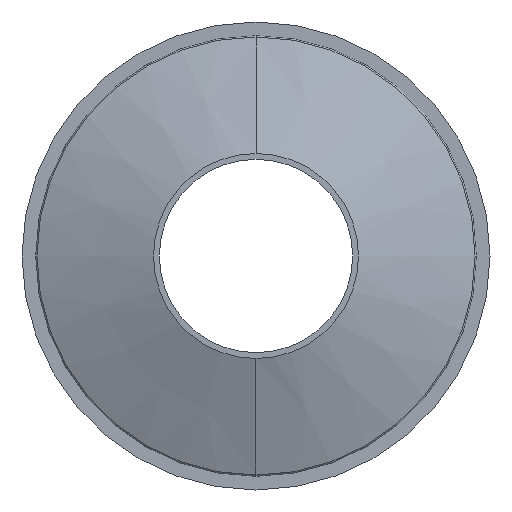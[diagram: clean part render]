
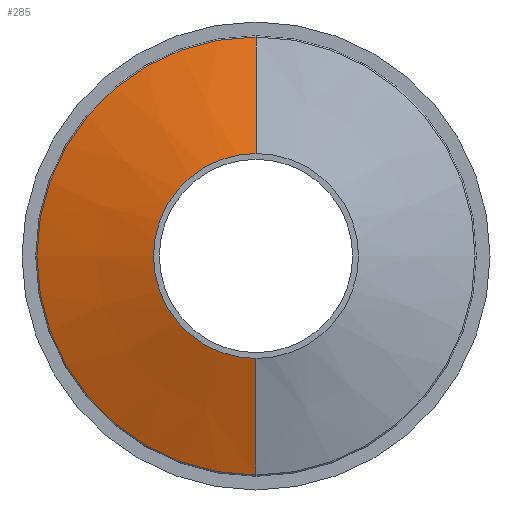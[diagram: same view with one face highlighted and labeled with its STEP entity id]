
A CAD part, left-side view. The second image highlights one B-rep face of the part: STEP entity #285.
In plain terms, the highlighted conical face has half-angle 70 degrees and reference radius 56.634 mm.
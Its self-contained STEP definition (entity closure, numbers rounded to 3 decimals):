
#3 = CARTESIAN_POINT ( 'NONE',  ( -5.452, 0., -56.634 ) ) ;
#4 = EDGE_LOOP ( 'NONE', ( #372, #240, #312, #278 ) ) ;
#8 = VERTEX_POINT ( 'NONE', #111 ) ;
#13 = DIRECTION ( 'NONE',  ( 0., 0., -1. ) ) ;
#23 = VECTOR ( 'NONE', #204, 1000. ) ;
#30 = LINE ( 'NONE', #530, #23 ) ;
#34 = CARTESIAN_POINT ( 'NONE',  ( -5.452, 0., 0. ) ) ;
#38 = AXIS2_PLACEMENT_3D ( 'NONE', #331, #52, #13 ) ;
#52 = DIRECTION ( 'NONE',  ( 1., 0., 0. ) ) ;
#66 = EDGE_CURVE ( 'NONE', #103, #8, #30, .T. ) ;
#103 = VERTEX_POINT ( 'NONE', #526 ) ;
#111 = CARTESIAN_POINT ( 'NONE',  ( -5.452, 0., 56.634 ) ) ;
#118 = CIRCLE ( 'NONE', #251, 56.634 ) ;
#152 = VECTOR ( 'NONE', #212, 1000. ) ;
#154 = EDGE_CURVE ( 'NONE', #8, #419, #118, .T. ) ;
#171 = FACE_OUTER_BOUND ( 'NONE', #4, .T. ) ;
#192 = CARTESIAN_POINT ( 'NONE',  ( -5.452, 0., -56.634 ) ) ;
#204 = DIRECTION ( 'NONE',  ( 0.342, 0., 0.94 ) ) ;
#211 = LINE ( 'NONE', #3, #152 ) ;
#212 = DIRECTION ( 'NONE',  ( 0.342, 0., -0.94 ) ) ;
#213 = VERTEX_POINT ( 'NONE', #491 ) ;
#240 = ORIENTED_EDGE ( 'NONE', *, *, #66, .T. ) ;
#245 = DIRECTION ( 'NONE',  ( 0., 0., 1. ) ) ;
#251 = AXIS2_PLACEMENT_3D ( 'NONE', #34, #283, #245 ) ;
#272 = EDGE_CURVE ( 'NONE', #213, #419, #211, .T. ) ;
#278 = ORIENTED_EDGE ( 'NONE', *, *, #272, .F. ) ;
#283 = DIRECTION ( 'NONE',  ( -1., 0., 0. ) ) ;
#285 = ADVANCED_FACE ( 'NONE', ( #171 ), #453, .T. ) ;
#312 = ORIENTED_EDGE ( 'NONE', *, *, #154, .T. ) ;
#331 = CARTESIAN_POINT ( 'NONE',  ( -5.452, 0., 0. ) ) ;
#353 = DIRECTION ( 'NONE',  ( 0., 0., 1. ) ) ;
#367 = AXIS2_PLACEMENT_3D ( 'NONE', #397, #436, #353 ) ;
#372 = ORIENTED_EDGE ( 'NONE', *, *, #435, .F. ) ;
#397 = CARTESIAN_POINT ( 'NONE',  ( -16.419, 0., 0. ) ) ;
#419 = VERTEX_POINT ( 'NONE', #192 ) ;
#435 = EDGE_CURVE ( 'NONE', #103, #213, #460, .T. ) ;
#436 = DIRECTION ( 'NONE',  ( -1., 0., 0. ) ) ;
#453 = CONICAL_SURFACE ( 'NONE', #38, 56.634, 1.222 ) ;
#460 = CIRCLE ( 'NONE', #367, 26.5 ) ;
#491 = CARTESIAN_POINT ( 'NONE',  ( -16.419, 0., -26.5 ) ) ;
#526 = CARTESIAN_POINT ( 'NONE',  ( -16.419, 0., 26.5 ) ) ;
#530 = CARTESIAN_POINT ( 'NONE',  ( -5.452, 0., 56.634 ) ) ;
